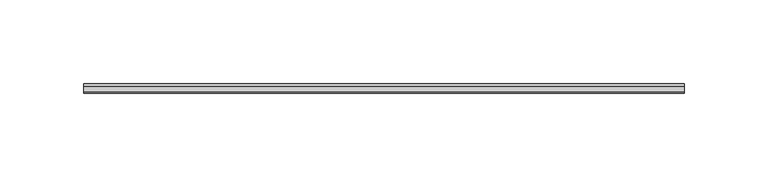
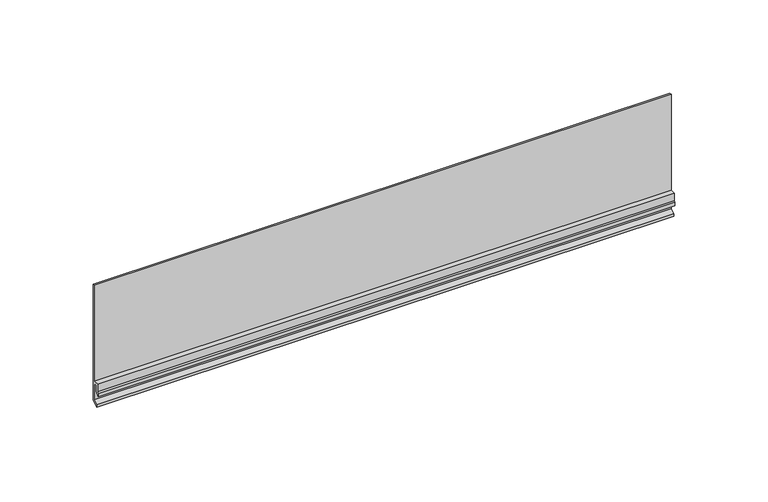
"""IFC4 building model written with IfcOpenShell, lengths in millimetres: plate geometry, FastPlank_P44V-V-Notch-4″-Plank-Horizontal : P44V-V-Notch-4″-Plank-Horizontal."""

from ifc_helpers import new_model, si_unit, frame, origin, place, context, project, spatial, polyline, outline, extrude, source, transform, mapped, element, save


def plate_fd6fbabc(model_context):
    return source(origin(), model_context, "Body", "SweptSolid", [
        extrude(outline(polyline([(18.8745946, 2.3957023), (14.7246029, 0.0), (14.7246029, 1.7319938), (17.3745976, 3.2617795), (17.3745976, 13.9827581), (15.5246013, 13.9827581), (15.5246013, 9.9691576), (13.3162936, 7.7608499), (13.3162936, 9.8794005), (14.0246043, 10.5877112), (14.0246043, 15.4863039), (17.5745972, 15.4863039), (17.5745972, 78.3636711), (18.8745946, 78.3636711), (18.8745946, 2.3957023)])), frame((-179.0386195, 0.0, 0.0), z_axis=(1.0, 0.0, 0.0), x_axis=(0.0, 1.0, 0.0)), (0.0, 0.0, 1.0), 358.077239),
    ])


if __name__ == "__main__":
    model = new_model("IFC4")
    model_context = context("Model", 3, world=origin())
    ifc_project = project(units=[si_unit("LENGTHUNIT", "METRE", prefix="MILLI")], contexts=[model_context])
    site = spatial("IfcSite", under=ifc_project)
    building = spatial("IfcBuilding", under=site)
    placement = place(None, origin())
    plate_shape = plate_fd6fbabc(model_context)
    element("IfcPlate", 1, ObjectType="FastPlank_P44V-V-Notch-4″-Plank-Horizontal : P44V-V-Notch-4″-Plank-Horizontal", at=placement, inside=building, context=model_context, shape_type="MappedRepresentation", body=[
        mapped(plate_shape, transform((0.0, 0.0, 0.0), x_axis=(1.0, 0.0, 0.0), y_axis=(0.0, 1.0, 0.0), z_axis=(0.0, 0.0, 1.0))),
    ])
    save(model, "model.ifc")
